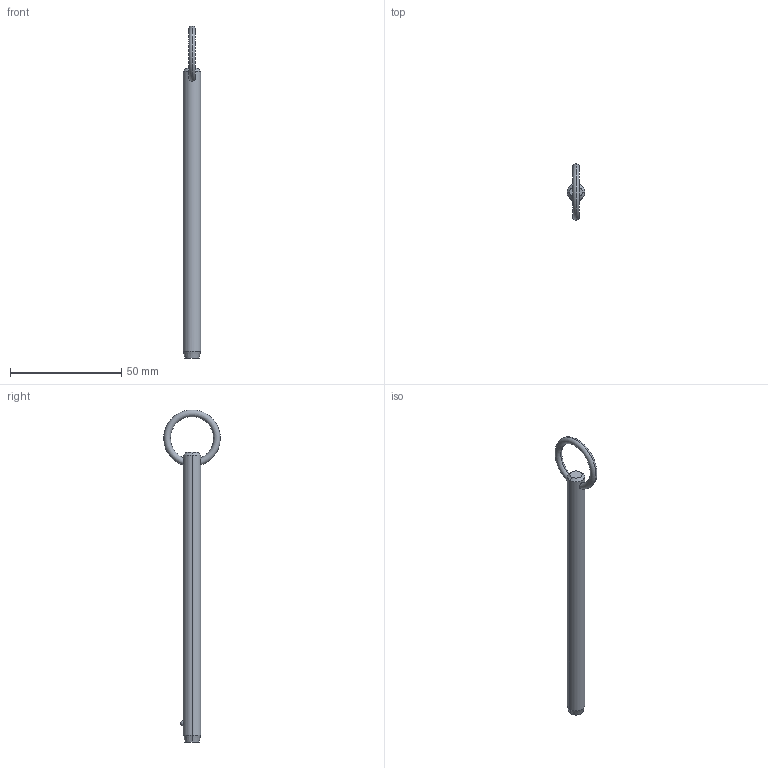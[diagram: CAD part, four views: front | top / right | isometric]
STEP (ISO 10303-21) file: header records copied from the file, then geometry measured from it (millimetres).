
FILE_DESCRIPTION (( 'STEP AP203' ), '1' );
FILE_NAME ('P1250.031-450.step', '2019-07-29T19:56:32', ( '' ), ( '' ), 'SwSTEP 2.0', 'SolidWorks 2017', '' );
FILE_SCHEMA (( 'CONFIG_CONTROL_DESIGN' ));
Length unit declared in the file: millimetre
Products named in the file (1): P1250.031-450
Bounding box: 7.93 x 25.36 x 149.21 mm (x, y, z)
Volume: 6829.6 mm3; surface area: 3878.3 mm2
Topology: 1 solids, 1 shells, 12 faces, 28 edges, 17 vertices
Faces by surface type: cone 4, torus 2, sphere 2, cylinder 2, plane 2
Entity records: 509 total; most frequent: CARTESIAN_POINT 176, DIRECTION 56, ORIENTED_EDGE 48, AXIS2_PLACEMENT_3D 25, EDGE_CURVE 24, VERTEX_POINT 15, EDGE_LOOP 15, CIRCLE 12
